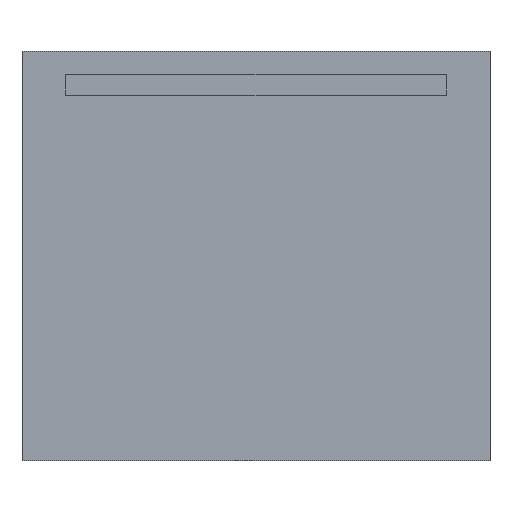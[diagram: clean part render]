
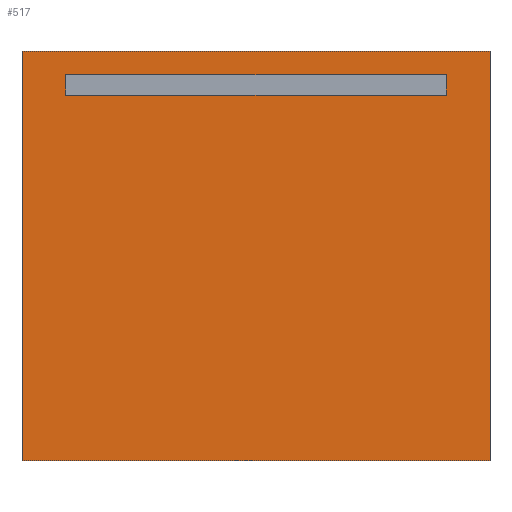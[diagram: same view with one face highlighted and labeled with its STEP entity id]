
A CAD part, front view. The second image highlights one B-rep face of the part: STEP entity #517.
In plain terms, the highlighted planar face has unit normal (0, -1, 0).
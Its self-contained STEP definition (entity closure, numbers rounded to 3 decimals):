
#47=FACE_BOUND('',#92,.T.);
#62=FACE_OUTER_BOUND('',#91,.T.);
#91=EDGE_LOOP('',(#359,#360,#361,#362));
#92=EDGE_LOOP('',(#363,#364,#365,#366));
#115=LINE('',#766,#159);
#119=LINE('',#774,#163);
#122=LINE('',#780,#166);
#125=LINE('',#785,#169);
#127=LINE('',#791,#171);
#131=LINE('',#799,#175);
#134=LINE('',#805,#178);
#137=LINE('',#810,#181);
#159=VECTOR('',#614,10.);
#163=VECTOR('',#620,10.);
#166=VECTOR('',#625,10.);
#169=VECTOR('',#630,10.);
#171=VECTOR('',#636,10.);
#175=VECTOR('',#642,10.);
#178=VECTOR('',#647,10.);
#181=VECTOR('',#652,10.);
#203=VERTEX_POINT('',#764);
#204=VERTEX_POINT('',#765);
#207=VERTEX_POINT('',#773);
#209=VERTEX_POINT('',#779);
#211=VERTEX_POINT('',#789);
#212=VERTEX_POINT('',#790);
#215=VERTEX_POINT('',#798);
#217=VERTEX_POINT('',#804);
#251=EDGE_CURVE('',#203,#204,#115,.T.);
#255=EDGE_CURVE('',#207,#203,#119,.T.);
#258=EDGE_CURVE('',#209,#207,#122,.T.);
#261=EDGE_CURVE('',#204,#209,#125,.T.);
#263=EDGE_CURVE('',#211,#212,#127,.T.);
#267=EDGE_CURVE('',#215,#211,#131,.T.);
#270=EDGE_CURVE('',#217,#215,#134,.T.);
#273=EDGE_CURVE('',#212,#217,#137,.T.);
#359=ORIENTED_EDGE('',*,*,#273,.F.);
#360=ORIENTED_EDGE('',*,*,#263,.F.);
#361=ORIENTED_EDGE('',*,*,#267,.F.);
#362=ORIENTED_EDGE('',*,*,#270,.F.);
#363=ORIENTED_EDGE('',*,*,#251,.T.);
#364=ORIENTED_EDGE('',*,*,#261,.T.);
#365=ORIENTED_EDGE('',*,*,#258,.T.);
#366=ORIENTED_EDGE('',*,*,#255,.T.);
#465=PLANE('',#567);
#517=ADVANCED_FACE('',(#62,#47),#465,.F.);
#567=AXIS2_PLACEMENT_3D('',#813,#656,#657);
#614=DIRECTION('',(0.,0.,-1.));
#620=DIRECTION('',(1.,0.,0.));
#625=DIRECTION('',(0.,0.,1.));
#630=DIRECTION('',(-1.,0.,0.));
#636=DIRECTION('',(0.,0.,1.));
#642=DIRECTION('',(-1.,0.,0.));
#647=DIRECTION('',(0.,0.,-1.));
#652=DIRECTION('',(1.,0.,0.));
#656=DIRECTION('center_axis',(0.,1.,0.));
#657=DIRECTION('ref_axis',(0.,0.,1.));
#764=CARTESIAN_POINT('',(325.,-26.,660.));
#765=CARTESIAN_POINT('',(325.,-26.,625.));
#766=CARTESIAN_POINT('',(325.,-26.,505.));
#773=CARTESIAN_POINT('',(-325.,-26.,660.));
#774=CARTESIAN_POINT('',(-162.5,-26.,660.));
#779=CARTESIAN_POINT('',(-325.,-26.,625.));
#780=CARTESIAN_POINT('',(-325.,-26.,487.5));
#785=CARTESIAN_POINT('',(162.5,-26.,625.));
#789=CARTESIAN_POINT('',(-400.,-26.,0.));
#790=CARTESIAN_POINT('',(-400.,-26.,700.));
#791=CARTESIAN_POINT('',(-400.,-26.,0.));
#798=CARTESIAN_POINT('',(400.,-26.,0.));
#799=CARTESIAN_POINT('',(400.,-26.,0.));
#804=CARTESIAN_POINT('',(400.,-26.,700.));
#805=CARTESIAN_POINT('',(400.,-26.,700.));
#810=CARTESIAN_POINT('',(-400.,-26.,700.));
#813=CARTESIAN_POINT('Origin',(0.,-26.,350.));
